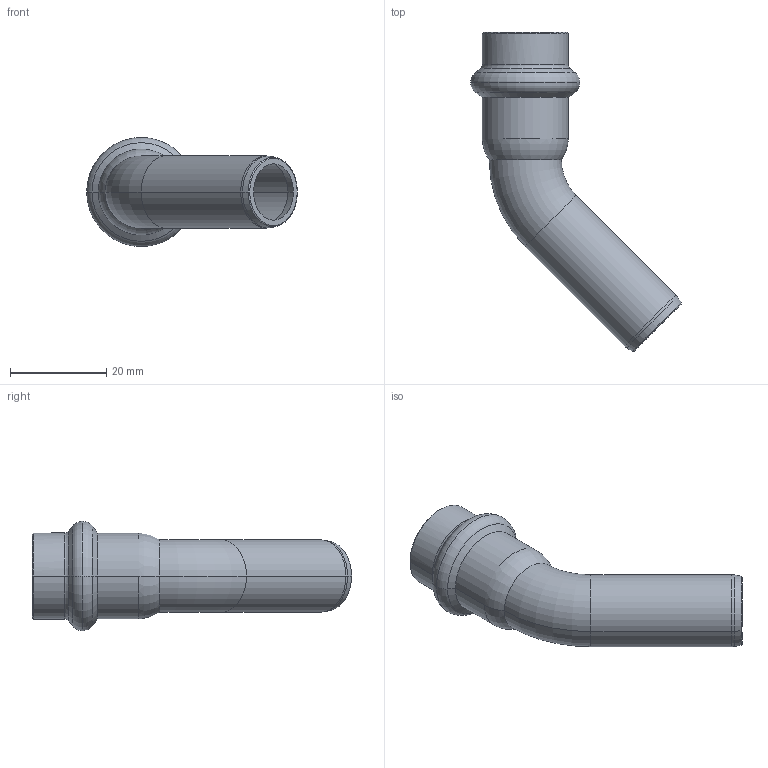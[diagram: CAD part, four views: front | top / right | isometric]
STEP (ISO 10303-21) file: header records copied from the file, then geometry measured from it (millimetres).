
FILE_DESCRIPTION(('CoCreate Modeling STEP Export'),'2;1');
FILE_NAME('8040VW15.stp','2013-01-29T14:39:47',(''),(''),'CoCreate Modeling STEP processor for AP214 (Solid Model)','CoCreate Modeling 17.00A 17-Jun-2010 (C) Parametric Technology GmbH','');
FILE_SCHEMA(('AUTOMOTIVE_DESIGN { 1 0 10303 214 1 1 1 1 }'));
Length unit declared in the file: millimetre
Products named in the file (1): 8040VW15
Bounding box: 43.78 x 66.32 x 22.69 mm (x, y, z)
Volume: 5031.5 mm3; surface area: 7069.4 mm2
Topology: 1 solids, 1 shells, 58 faces, 122 edges, 70 vertices
Faces by surface type: torus 20, cylinder 16, cone 16, plane 6
Entity records: 1275 total; most frequent: ORIENTED_EDGE 244, DIRECTION 204, CARTESIAN_POINT 188, EDGE_CURVE 122, AXIS2_PLACEMENT_3D 86, VERTEX_POINT 70, EDGE_LOOP 64, FACE_OUTER_BOUND 58
